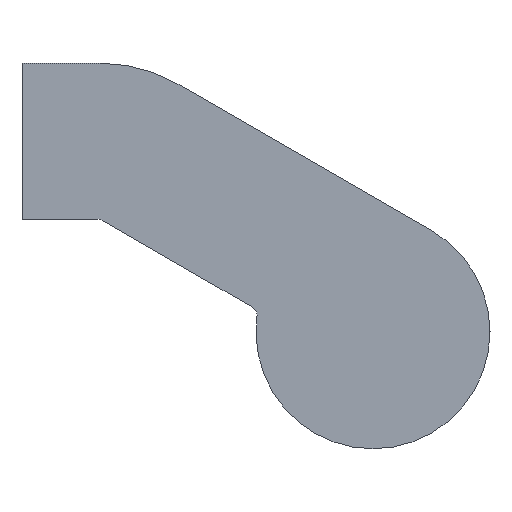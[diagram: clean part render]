
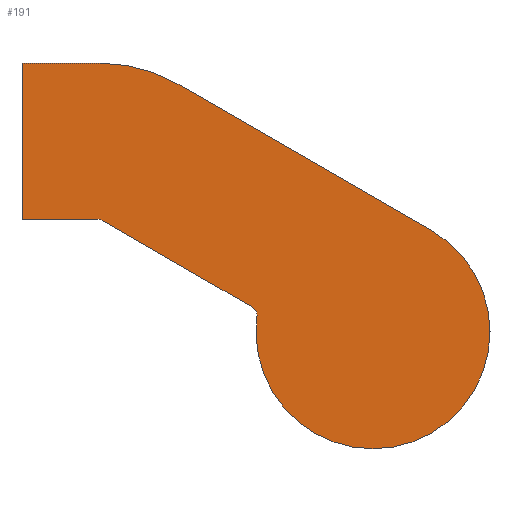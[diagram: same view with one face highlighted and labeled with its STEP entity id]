
A CAD part, left-side view. The second image highlights one B-rep face of the part: STEP entity #191.
In plain terms, the highlighted planar face has unit normal (-1, 0, 0).
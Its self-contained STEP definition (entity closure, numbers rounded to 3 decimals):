
#115 = VERTEX_POINT( '', #312 );
#119 = EDGE_CURVE( '', #115, #227, #316, .T. );
#137 = EDGE_CURVE( '', #271, #115, #336, .T. );
#141 = VERTEX_POINT( '', #340 );
#155 = EDGE_CURVE( '', #267, #237, #356, .T. );
#163 = EDGE_CURVE( '', #227, #235, #366, .T. );
#167 = VERTEX_POINT( '', #370 );
#175 = EDGE_CURVE( '', #187, #167, #378, .T. );
#179 = EDGE_CURVE( '', #237, #187, #382, .T. );
#187 = VERTEX_POINT( '', #391 );
#189 = EDGE_CURVE( '', #167, #271, #393, .T. );
#191 = ADVANCED_FACE( '', ( #395 ), #396, .F. );
#213 = EDGE_CURVE( '', #231, #141, #421, .T. );
#227 = VERTEX_POINT( '', #436 );
#231 = VERTEX_POINT( '', #440 );
#235 = VERTEX_POINT( '', #444 );
#237 = VERTEX_POINT( '', #446 );
#255 = EDGE_CURVE( '', #235, #231, #464, .T. );
#267 = VERTEX_POINT( '', #480 );
#271 = VERTEX_POINT( '', #484 );
#275 = EDGE_CURVE( '', #141, #267, #488, .T. );
#312 = CARTESIAN_POINT( '', ( -11., -21., -4.577 ) );
#316 = CIRCLE( '', #523, 6. );
#336 = LINE( '', #550, #551 );
#340 = CARTESIAN_POINT( '', ( -11., -4.116, -4.067 ) );
#356 = LINE( '', #577, #578 );
#366 = CIRCLE( '', #591, 6. );
#370 = CARTESIAN_POINT( '', ( -11., -4., 4. ) );
#378 = LINE( '', #607, #608 );
#382 = LINE( '', #614, #615 );
#391 = CARTESIAN_POINT( '', ( -11., 0., 4. ) );
#393 = CIRCLE( '', #629, 8. );
#395 = FACE_OUTER_BOUND( '', #631, .T. );
#396 = PLANE( '', #632 );
#421 = LINE( '', #663, #664 );
#436 = CARTESIAN_POINT( '', ( -11., -15., -14.97 ) );
#440 = CARTESIAN_POINT( '', ( -11., -11.804, -8.506 ) );
#444 = CARTESIAN_POINT( '', ( -11., -12.05, -9.003 ) );
#446 = CARTESIAN_POINT( '', ( -11., 0., -4. ) );
#464 = CIRCLE( '', #725, 0.5 );
#480 = CARTESIAN_POINT( '', ( -11., -3.866, -4. ) );
#484 = CARTESIAN_POINT( '', ( -11., -8., 2.928 ) );
#488 = CIRCLE( '', #754, 0.5 );
#523 = AXIS2_PLACEMENT_3D( '', #787, #788, #789 );
#550 = CARTESIAN_POINT( '', ( -11., -8., 2.928 ) );
#551 = VECTOR( '', #813, 1. );
#577 = CARTESIAN_POINT( '', ( -11., -3.866, -4. ) );
#578 = VECTOR( '', #841, 1. );
#591 = AXIS2_PLACEMENT_3D( '', #857, #858, #859 );
#607 = CARTESIAN_POINT( '', ( -11., 0., 4. ) );
#608 = VECTOR( '', #864, 1. );
#614 = CARTESIAN_POINT( '', ( -11., 0., -4. ) );
#615 = VECTOR( '', #868, 1. );
#629 = AXIS2_PLACEMENT_3D( '', #883, #884, #885 );
#631 = EDGE_LOOP( '', ( #887, #888, #889, #890, #891, #892, #893, #894, #895, #896 ) );
#632 = AXIS2_PLACEMENT_3D( '', #897, #898, #899 );
#663 = CARTESIAN_POINT( '', ( -11., -11.804, -8.506 ) );
#664 = VECTOR( '', #932, 1. );
#725 = AXIS2_PLACEMENT_3D( '', #957, #958, #959 );
#754 = AXIS2_PLACEMENT_3D( '', #994, #995, #996 );
#787 = CARTESIAN_POINT( '', ( -11., -18., -9.774 ) );
#788 = DIRECTION( '', ( 1., 0., 0. ) );
#789 = DIRECTION( '', ( 0., -0.5, 0.866 ) );
#813 = DIRECTION( '', ( 0., -0.866, -0.5 ) );
#841 = DIRECTION( '', ( 0., 1., 0. ) );
#857 = CARTESIAN_POINT( '', ( -11., -18., -9.774 ) );
#858 = DIRECTION( '', ( 1., 0., 0. ) );
#859 = DIRECTION( '', ( 0., -0.5, 0.866 ) );
#864 = DIRECTION( '', ( 0., -1., 0. ) );
#868 = DIRECTION( '', ( 0., 0., 1. ) );
#883 = CARTESIAN_POINT( '', ( -11., -4., -4. ) );
#884 = DIRECTION( '', ( 1., 0., 0. ) );
#885 = DIRECTION( '', ( 0., 0., 1. ) );
#887 = ORIENTED_EDGE( '', *, *, #189, .F. );
#888 = ORIENTED_EDGE( '', *, *, #175, .F. );
#889 = ORIENTED_EDGE( '', *, *, #179, .F. );
#890 = ORIENTED_EDGE( '', *, *, #155, .F. );
#891 = ORIENTED_EDGE( '', *, *, #275, .F. );
#892 = ORIENTED_EDGE( '', *, *, #213, .F. );
#893 = ORIENTED_EDGE( '', *, *, #255, .F. );
#894 = ORIENTED_EDGE( '', *, *, #163, .F. );
#895 = ORIENTED_EDGE( '', *, *, #119, .F. );
#896 = ORIENTED_EDGE( '', *, *, #137, .F. );
#897 = CARTESIAN_POINT( '', ( -11., 0., 0. ) );
#898 = DIRECTION( '', ( 1., 0., 0. ) );
#899 = DIRECTION( '', ( 0., 0., -1. ) );
#932 = DIRECTION( '', ( 0., 0.866, 0.5 ) );
#957 = CARTESIAN_POINT( '', ( -11., -11.554, -8.939 ) );
#958 = DIRECTION( '', ( -1., 0., 0. ) );
#959 = DIRECTION( '', ( 0., -0.992, -0.128 ) );
#994 = CARTESIAN_POINT( '', ( -11., -3.866, -4.5 ) );
#995 = DIRECTION( '', ( -1., 0., 0. ) );
#996 = DIRECTION( '', ( 0., -0.5, 0.866 ) );
